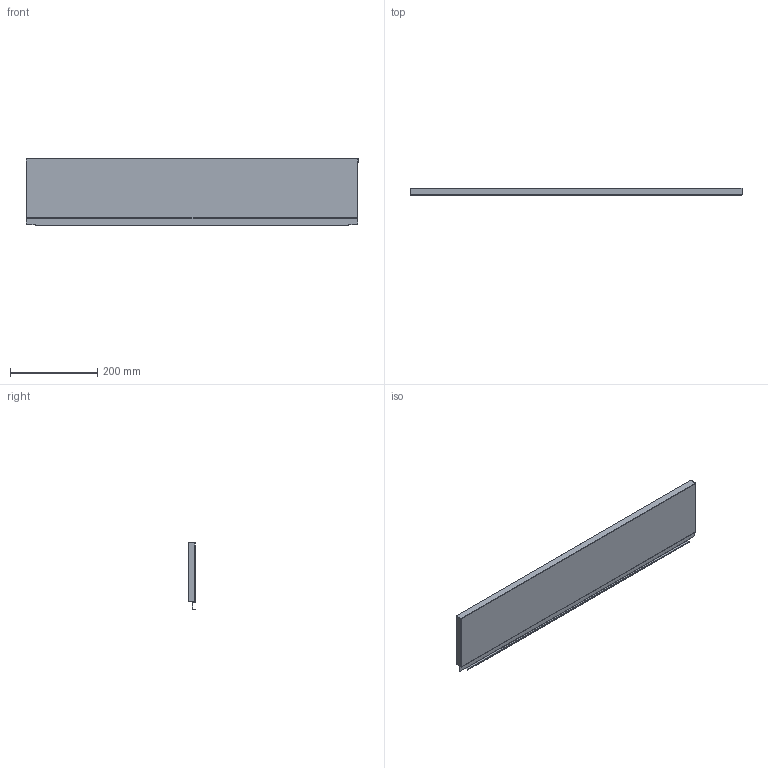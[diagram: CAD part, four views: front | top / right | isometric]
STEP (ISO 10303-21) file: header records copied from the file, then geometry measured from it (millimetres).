
FILE_DESCRIPTION (( 'STEP AP214' ), '1' );
FILE_NAME ('_STRW_H154_KAB_850.step', '2010-08-24T14:40:38', ( 'grass' ), ( '' ), 'SwSTEP 2.0', 'SolidWorks 2009', '' );
FILE_SCHEMA (( 'AUTOMOTIVE_DESIGN' ));
Length unit declared in the file: millimetre
Products named in the file (1): _STRW_H154_KAB_850
Bounding box: 760 x 17 x 154.14 mm (x, y, z)
Volume: 114112.2 mm3; surface area: 286864.7 mm2
Topology: 1 solids, 1 shells, 76 faces, 214 edges, 140 vertices
Faces by surface type: plane 54, cylinder 22
Entity records: 2472 total; most frequent: CARTESIAN_POINT 431, ORIENTED_EDGE 428, DIRECTION 412, EDGE_CURVE 214, LINE 170, VECTOR 170, VERTEX_POINT 140, AXIS2_PLACEMENT_3D 121
